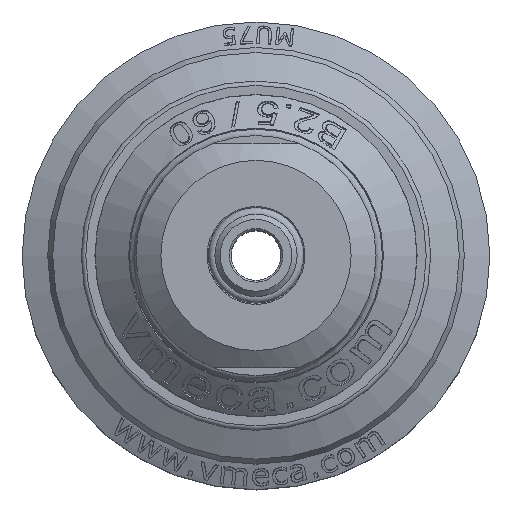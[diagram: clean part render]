
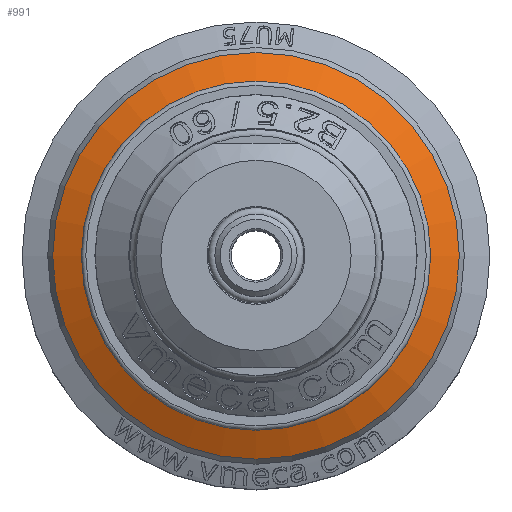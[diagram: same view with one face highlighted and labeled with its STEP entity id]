
A CAD part, top view. The second image highlights one B-rep face of the part: STEP entity #991.
In plain terms, the highlighted conical face has half-angle 64.478 degrees and reference radius 32.602 mm.
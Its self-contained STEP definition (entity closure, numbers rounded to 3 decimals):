
#991 = ADVANCED_FACE( '', ( #2376, #2377 ), #2378, .T. );
#2376 = FACE_BOUND( '', #11924, .T. );
#2377 = FACE_OUTER_BOUND( '', #11925, .T. );
#2378 = CONICAL_SURFACE( '', #11926, 32.601, 1.125 );
#11924 = EDGE_LOOP( '', ( #15226 ) );
#11925 = EDGE_LOOP( '', ( #15227 ) );
#11926 = AXIS2_PLACEMENT_3D( '', #15228, #15229, #15230 );
#15226 = ORIENTED_EDGE( '', *, *, #16633, .T. );
#15227 = ORIENTED_EDGE( '', *, *, #16435, .F. );
#15228 = CARTESIAN_POINT( '', ( 0., 0., -5.121 ) );
#15229 = DIRECTION( '', ( 0., 0., -1. ) );
#15230 = DIRECTION( '', ( -1., 0., 0. ) );
#16435 = EDGE_CURVE( '', #18361, #18361, #18362, .T. );
#16633 = EDGE_CURVE( '', #18659, #18659, #18660, .T. );
#18361 = VERTEX_POINT( '', #26568 );
#18362 = CIRCLE( '', #26569, 32.601 );
#18659 = VERTEX_POINT( '', #27506 );
#18660 = CIRCLE( '', #27507, 27.958 );
#26568 = CARTESIAN_POINT( '', ( -32.601, 0., -5.121 ) );
#26569 = AXIS2_PLACEMENT_3D( '', #28169, #28170, #28171 );
#27506 = CARTESIAN_POINT( '', ( -27.958, 0., -2.904 ) );
#27507 = AXIS2_PLACEMENT_3D( '', #28254, #28255, #28256 );
#28169 = CARTESIAN_POINT( '', ( 0., 0., -5.121 ) );
#28170 = DIRECTION( '', ( 0., 0., -1. ) );
#28171 = DIRECTION( '', ( -1., 0., 0. ) );
#28254 = CARTESIAN_POINT( '', ( 0., 0., -2.904 ) );
#28255 = DIRECTION( '', ( 0., 0., -1. ) );
#28256 = DIRECTION( '', ( -1., 0., 0. ) );
